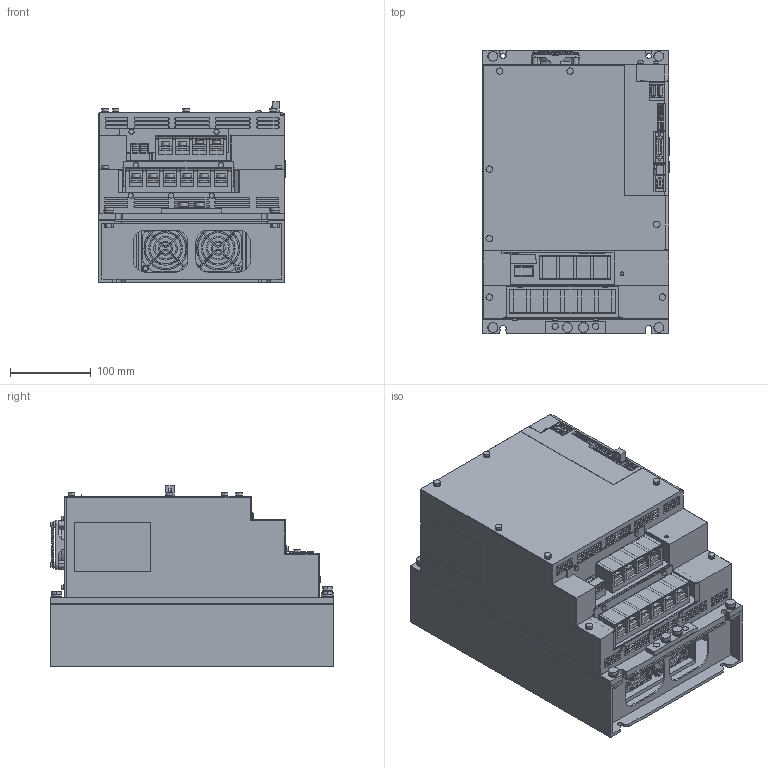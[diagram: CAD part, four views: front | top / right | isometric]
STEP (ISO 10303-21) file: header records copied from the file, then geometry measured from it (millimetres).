
FILE_DESCRIPTION (( 'STEP AP203' ), '1' );
FILE_NAME ('sgdv_210d1_a.STEP', '2009-05-13T13:04:46', ( 'T' ), ( 'T' ), 'SwSTEP 2.0', 'SolidWorks 2006052', '' );
FILE_SCHEMA (( 'CONFIG_CONTROL_DESIGN' ));
Products named in the file (8): sgdv_210d1_a_base; sgdv_210d1_a_cover; sgdv_210d1_a_cover5; sgdv_210d1_a; sgdv_210d1_a_cover2; sgdv_210d1_a_connector; sgdv_210d1_a_cover3; sgdv_210d1_a_cover4
Assembly tree (8 placements, depth 2):
  sgdv_210d1_a
    sgdv_210d1_a_cover2  x2
    sgdv_210d1_a_base
    sgdv_210d1_a_cover5
    sgdv_210d1_a_connector
    sgdv_210d1_a_cover4
    sgdv_210d1_a_cover3
    sgdv_210d1_a_cover
Bounding box: 230.6 x 350 x 223 mm (x, y, z)
Volume: 13364407.6 mm3; surface area: 642866.8 mm2
Topology: 8 solids, 8 shells, 2696 faces, 7464 edges, 4924 vertices
Faces by surface type: plane 2148, cylinder 527, cone 20, sphere 1
Entity records: 85884 total; most frequent: CARTESIAN_POINT 15128, ORIENTED_EDGE 14820, DIRECTION 14052, EDGE_CURVE 7410, VECTOR 6076, LINE 6076, VERTEX_POINT 4888, AXIS2_PLACEMENT_3D 3988
